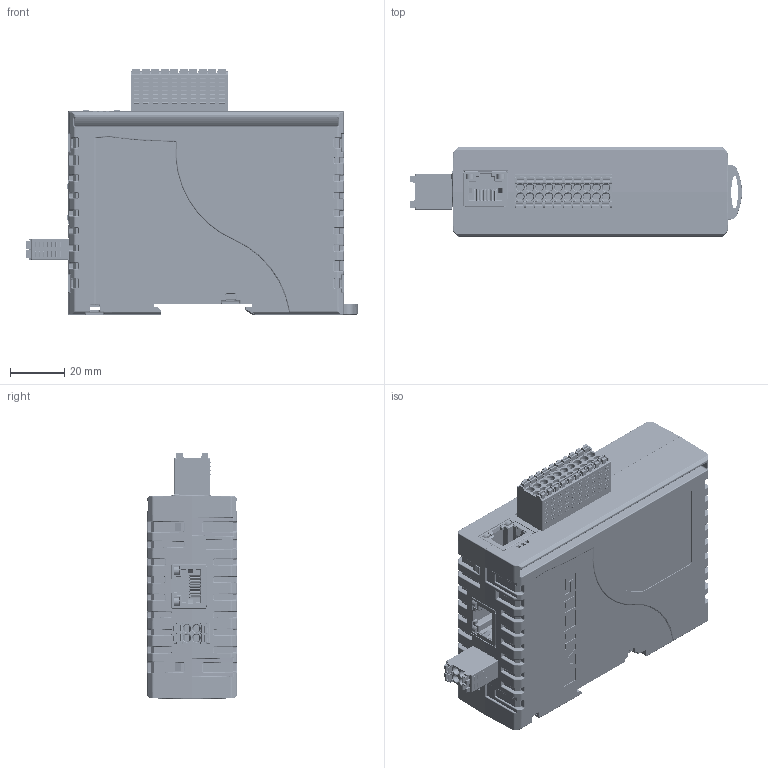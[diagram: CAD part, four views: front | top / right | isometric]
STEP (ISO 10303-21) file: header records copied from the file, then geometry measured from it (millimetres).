
FILE_DESCRIPTION((''),'2;1');
FILE_NAME('SHELL-ALL_ASM_1_ASM_1_ASM','2023-07-27T16:34:18',('Administrator'),('yulong DESIGN'),'CREO PARAMETRIC BY PTC INC, 2021023','CREO PARAMETRIC BY PTC INC, 2021023','');
FILE_SCHEMA(('AUTOMOTIVE_DESIGN { 1 0 10303 214 1 1 1 1 }'));
Products named in the file (16): SHELL-1_1_1; PCB_1_1; DINKLE_0159-31XX_1_1_1_1; DINKLE_0159-31XX_1_2_1_1; DINKLE_0159-31XX_1_3_1_1; DINKLE_0159-31XX_1_ASM_1_ASM_1_ASM; 0159-3104_ASM_1_ASM_1_ASM; MJ5688-BX11-GRLX_1_1; X-PCB_1; X-PCB-ALL_ASM_1_ASM; PCB-ALL_ASM_1_ASM_1_ASM; SHELL-2_1_1; DIN_LATCH_20200719_1_1; 0159-0320_000_1; 0159-03040001_1; SHELL-ALL_ASM_1_ASM_1_ASM
Assembly tree (17 placements, depth 5):
  SHELL-ALL_ASM_1_ASM_1_ASM
    SHELL-1_1_1
    PCB-ALL_ASM_1_ASM_1_ASM
      PCB_1_1
      0159-3104_ASM_1_ASM_1_ASM
        DINKLE_0159-31XX_1_ASM_1_ASM_1_ASM
          DINKLE_0159-31XX_1_1_1_1
          DINKLE_0159-31XX_1_2_1_1
          DINKLE_0159-31XX_1_3_1_1
      MJ5688-BX11-GRLX_1_1  x2
      X-PCB-ALL_ASM_1_ASM  x2
        X-PCB_1
    SHELL-2_1_1
    DIN_LATCH_20200719_1_1
    0159-0320_000_1
    0159-03040001_1
Bounding box: 122.11 x 33 x 90.54 mm (x, y, z)
Volume: 240174.9 mm3; surface area: 93489.9 mm2
Topology: 13 solids, 15 shells, 7876 faces, 21223 edges, 13601 vertices
Faces by surface type: plane 4062, cylinder 2472, bspline 673, torus 452, cone 130, sphere 79, extrusion 8
Entity records: 316844 total; most frequent: CARTESIAN_POINT 80085, ORIENTED_EDGE 36372, DIRECTION 31793, PRESENTATION_STYLE_ASSIGNMENT 20314, STYLED_ITEM 20314, EDGE_CURVE 18186, CURVE_STYLE 17966, VERTEX_POINT 11713
